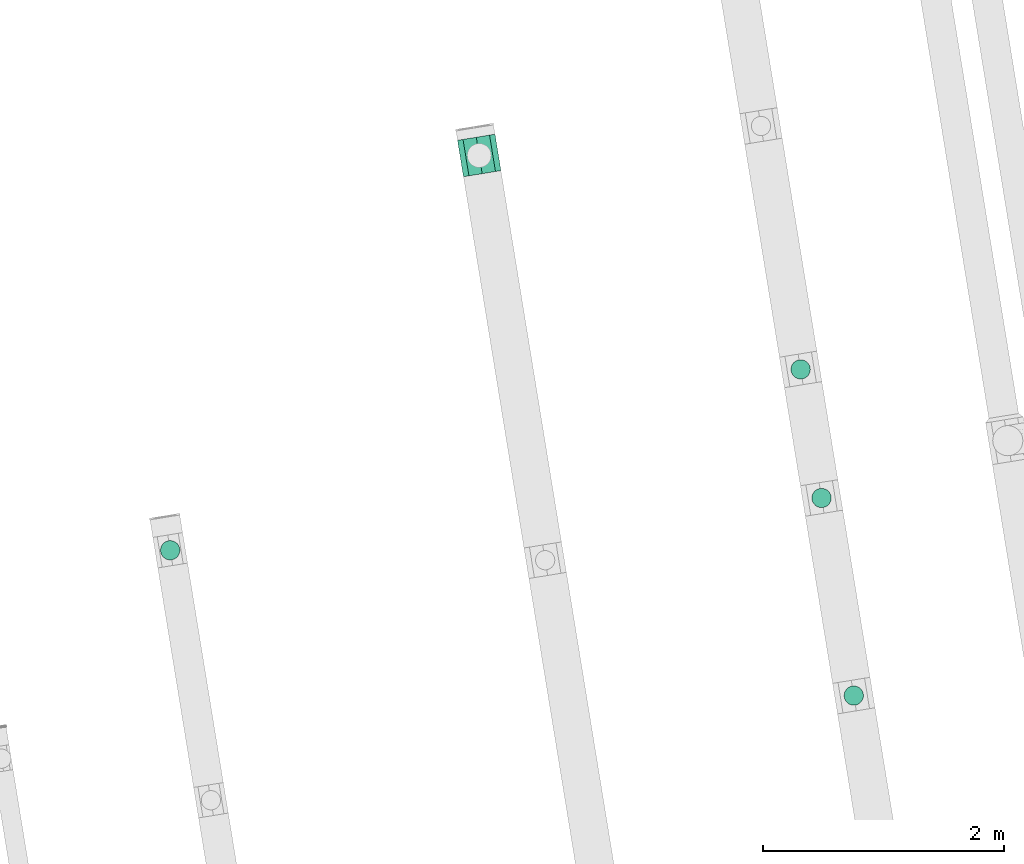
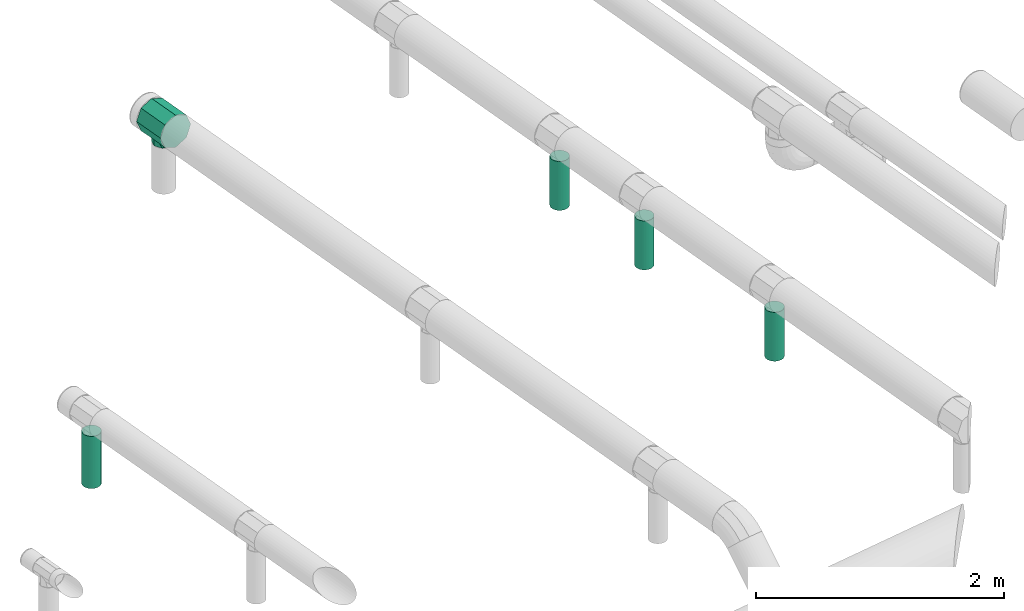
# One storey, part 13 of 15: 4 flow segments, 1 flow fitting.
"""IFC2X3 building model written with IfcOpenShell, lengths in millimetres."""

from ifc_helpers import new_model, entity, si_unit, converted_unit, derived_unit, direction, frame, origin, origin_with_axes, place, context, subcontext, project, spatial, faceted_brep, source, transform, mapped, material, type_object, element, save


model = new_model("IFC2X3")

# Units and contexts
model_context = context("Model", 3, precision=0.01, world=origin(), true_north=direction((6.12323399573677e-17, 1.0)))
plan_context = context("Plan", 3, precision=1e-05, world=origin_with_axes())
body_context = subcontext(model_context, "Body", "Model", "MODEL_VIEW")
ifc_project = project(units=[converted_unit("PLANEANGLEUNIT", "DEGREE", entity("IfcPositiveLengthMeasure", 0.0174532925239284), si_unit("PLANEANGLEUNIT", "RADIAN"), dimensions=[0, 0, 0, 0, 0, 0, 0]), si_unit("AREAUNIT", "SQUARE_METRE"), si_unit("LENGTHUNIT", "METRE", prefix="MILLI"), si_unit("MASSUNIT", "GRAM", prefix="KILO"), si_unit("POWERUNIT", "WATT"), si_unit("PRESSUREUNIT", "PASCAL", prefix="KILO"), si_unit("FORCEUNIT", "NEWTON", prefix="KILO"), si_unit("ELECTRICVOLTAGEUNIT", "VOLT"), si_unit("ELECTRICCURRENTUNIT", "AMPERE"), si_unit("THERMODYNAMICTEMPERATUREUNIT", "DEGREE_CELSIUS"), si_unit("TIMEUNIT", "SECOND"), si_unit("VOLUMEUNIT", "CUBIC_METRE"), derived_unit("LINEARVELOCITYUNIT", [(si_unit("LENGTHUNIT", "METRE"), 1), (si_unit("TIMEUNIT", "SECOND"), -1)]), derived_unit("VOLUMETRICFLOWRATEUNIT", [(si_unit("VOLUMEUNIT", "CUBIC_METRE"), 1), (si_unit("TIMEUNIT", "SECOND"), -1)]), derived_unit("THERMALTRANSMITTANCEUNIT", [(si_unit("POWERUNIT", "WATT"), 1), (si_unit("THERMODYNAMICTEMPERATUREUNIT", "KELVIN"), -1), (si_unit("AREAUNIT", "SQUARE_METRE"), -1)]), derived_unit("SOUNDPRESSUREUNIT", [(si_unit("PRESSUREUNIT", "PASCAL"), 1)])], contexts=[model_context, plan_context])

# Site, building, storey
site_placement = place(None, frame((5.09380697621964e-08, 5.80416781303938e-08, 0.0), z_axis=(0.0, 0.0, 1.0), x_axis=(-0.160806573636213, 0.986985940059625, 0.0)))
site = spatial("IfcSite", under=ifc_project, at=site_placement, Name="Default", CompositionType="ELEMENT")
building_placement = place(site_placement, frame((0.0, 0.0, 0.0), z_axis=(0.0, 0.0, 1.0), x_axis=(1.0, -2.77555756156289e-17, 0.0)))
building = spatial("IfcBuilding", under=site, at=building_placement, Name="Bygning (endres i Project Information)", CompositionType="ELEMENT")
storey_placement = place(building_placement, frame((0.0, 0.0, 51360.0000000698), z_axis=(0.0, 0.0, 1.0), x_axis=(1.0, -2.77555756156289e-17, 0.0)))
storey = spatial("IfcBuildingStorey", under=building, at=storey_placement, Name="H01-Nivå D+0,36", CompositionType="ELEMENT", Elevation=51360.0000000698)

# Flow fitting
ifc_material_1 = material(Name="DF_Material1")
duct_fitting_type = type_object("IfcDuctFittingType", Name="Lindab TCPU:TCPU", PredefinedType="NOTDEFINED", material=ifc_material_1)
shared_shape = source(origin(), body_context, "Body", "Brep", [
    faceted_brep([(100.000000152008, 182.0, 0.0), (70.7106782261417, 182.0, -70.7106782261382), (0.0, 182.0, -100.000000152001), (-70.7106782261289, 182.0, -70.7106782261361), (-100.000000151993, 182.0, 0.0), (-70.710678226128, 182.0, 70.7106782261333), (0.0, 182.0, 100.000000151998), (70.7106782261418, 182.0, 70.7106782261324), (-45.8953315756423, 130.04857363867, 88.8460385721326), (0.0, 121.680935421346, 100.000000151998), (-100.000000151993, 157.500000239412, 0.0), (-88.7191412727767, 150.58996006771, 46.1401560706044), (-88.7144313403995, 150.587185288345, -46.1492112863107), (0.0, 121.680935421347, -100.000000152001), (-45.891786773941, 130.047322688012, -88.8478696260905), (45.8953315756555, 130.048573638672, -88.8460385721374), (100.000000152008, 157.500000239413, 0.0), (88.719141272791, 150.589960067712, -46.1401560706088), (88.7191412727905, 150.589960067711, 46.1401560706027), (45.8953315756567, 130.048573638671, 88.8460385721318), (-153.0, 0.0, -157.500000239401), (-153.0, -111.369318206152, -111.369318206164), (-153.0, -157.500000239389, 0.0), (-153.0, -111.369318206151, 111.369318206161), (-153.0, 0.0, 157.500000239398), (-153.0, 111.369318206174, 111.36931820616), (-153.0, 134.434659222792, 55.6846591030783), (-153.0, 157.500000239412, 0.0), (-153.0, 134.434659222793, -55.6846591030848), (-153.0, 111.369318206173, -111.369318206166), (153.0, 157.500000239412, 0.0), (153.0, 134.434659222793, 55.6846591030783), (153.0, 111.369318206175, 111.36931820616), (153.0, 0.0, 157.500000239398), (153.0, -111.36931820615, 111.369318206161), (153.0, -157.500000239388, 0.0), (153.0, -111.369318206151, -111.369318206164), (153.0, 0.0, -157.500000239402), (153.0, 111.369318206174, -111.369318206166), (153.0, 134.434659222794, -55.6846591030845)], [[[0, 1, 2, 3, 4, 5, 6, 7]], [[6, 8, 9]], [[5, 8, 6]], [[4, 10, 11]], [[11, 5, 4]], [[8, 5, 11]], [[4, 12, 10]], [[3, 12, 4]], [[2, 13, 14]], [[14, 3, 2]], [[12, 3, 14]], [[2, 15, 13]], [[1, 15, 2]], [[0, 16, 17]], [[17, 1, 0]], [[15, 1, 17]], [[0, 18, 16]], [[7, 18, 0]], [[6, 9, 19]], [[19, 7, 6]], [[18, 7, 19]], [[20, 21, 22, 23, 24, 25, 26, 27, 28, 29]], [[30, 31, 32, 33, 34, 35, 36, 37, 38, 39]], [[23, 34, 33, 24]], [[22, 35, 34, 23]], [[22, 21, 36, 35]], [[20, 37, 36, 21]], [[13, 38, 37]], [[17, 39, 15]], [[20, 13, 37]], [[20, 29, 13]], [[14, 13, 29]], [[28, 12, 14]], [[15, 38, 13]], [[16, 30, 17]], [[39, 38, 15]], [[28, 27, 12]], [[12, 27, 10]], [[14, 29, 28]], [[30, 39, 17]], [[18, 30, 16]], [[27, 11, 10]], [[19, 32, 31]], [[26, 11, 27]], [[32, 19, 9]], [[31, 18, 19]], [[33, 32, 9]], [[25, 9, 8]], [[31, 30, 18]], [[9, 25, 24]], [[24, 33, 9]], [[8, 26, 25]], [[11, 26, 8]]]),
])
flow_fitting_placement = place(storey_placement, frame((1003131.85989301, -343179.24363092, 3804.40000000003), z_axis=(-2.77555756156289e-17, -1.0, 0.0), x_axis=(-1.0, 2.77555756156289e-17, 0.0)))
element("IfcFlowFitting", 1, at=flow_fitting_placement, inside=storey, type_object=duct_fitting_type, material=ifc_material_1, Name="Lindab TCPU:TCPU", ObjectType="Lindab TCPU:TCPU", context=body_context, shape_type="MappedRepresentation", body=[
    mapped(shared_shape, transform((0.0, 0.0, 0.0), scale=1.0)),
])

# Flow segments
ifc_material_2 = material(Name="3601.001 Tilluft")
duct_segment_type = type_object("IfcDuctSegmentType", Name="Round Duct:Sirkulær kanal", PredefinedType="NOTDEFINED", material=ifc_material_2)
flow_segment_1_placement = place(storey_placement, frame((0.0, 0.0, 0.0), z_axis=(0.0, 0.0, 1.0), x_axis=(1.0, -2.77555756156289e-17, 0.0)))
element("IfcFlowSegment", 2, at=flow_segment_1_placement, inside=storey, type_object=duct_segment_type, Name="Round Duct:Sirkulær kanal", ObjectType="Round Duct:Sirkulær kanal", context=body_context, shape_type="Brep", body=[
    faceted_brep([(1000313.18735498, -340204.100723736, 3139.99999993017), (1000299.29550075, -340202.885343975, 3139.99999993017), (1000299.29550075, -340202.885343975, 3654.29489743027), (1000313.18735498, -340204.100723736, 3654.29489743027), (1000327.07920922, -340202.885343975, 3139.99999993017), (1000327.07920922, -340202.885343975, 3654.29489743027), (1000340.54896649, -340199.276133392, 3139.99999993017), (1000340.54896649, -340199.276133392, 3654.29489743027), (1000353.18735504, -340193.382756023, 3139.99999993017), (1000353.18735504, -340193.382756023, 3654.29489743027), (1000364.61036384, -340185.384279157, 3139.99999993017), (1000364.61036384, -340185.384279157, 3654.29489743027), (1000374.47091052, -340175.523732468, 3139.99999993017), (1000374.47091052, -340175.523732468, 3654.29489743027), (1000382.46938739, -340164.100723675, 3139.99999993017), (1000382.46938739, -340164.100723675, 3654.29489743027), (1000388.36276476, -340151.462335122, 3139.99999993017), (1000388.36276476, -340151.462335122, 3654.29489743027), (1000391.97197534, -340137.992577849, 3139.99999993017), (1000391.97197534, -340137.992577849, 3654.29489743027), (1000393.1873551, -340124.100723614, 3139.99999993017), (1000393.1873551, -340124.100723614, 3654.29489743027), (1000391.97197534, -340110.20886938, 3139.99999993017), (1000391.97197534, -340110.20886938, 3654.29489743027), (1000388.36276476, -340096.739112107, 3139.99999993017), (1000388.36276476, -340096.739112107, 3654.29489743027), (1000382.46938739, -340084.100723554, 3139.99999993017), (1000382.46938739, -340084.100723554, 3654.29489743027), (1000374.47091052, -340072.677714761, 3139.99999993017), (1000374.47091052, -340072.677714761, 3654.29489743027), (1000364.61036384, -340062.817168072, 3139.99999993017), (1000364.61036384, -340062.817168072, 3654.29489743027), (1000353.18735504, -340054.818691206, 3139.99999993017), (1000353.18735504, -340054.818691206, 3654.29489743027), (1000340.54896649, -340048.925313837, 3139.99999993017), (1000340.54896649, -340048.925313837, 3654.29489743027), (1000327.07920922, -340045.316103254, 3139.99999993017), (1000327.07920922, -340045.316103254, 3654.29489743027), (1000313.18735498, -340044.100723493, 3139.99999993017), (1000313.18735498, -340044.100723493, 3654.29489743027), (1000299.29550075, -340045.316103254, 3139.99999993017), (1000299.29550075, -340045.316103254, 3654.29489743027), (1000285.82574347, -340048.925313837, 3139.99999993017), (1000285.82574347, -340048.925313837, 3654.29489743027), (1000273.18735492, -340054.818691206, 3139.99999993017), (1000273.18735492, -340054.818691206, 3654.29489743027), (1000261.76434613, -340062.817168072, 3139.99999993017), (1000261.76434613, -340062.817168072, 3654.29489743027), (1000251.90379944, -340072.677714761, 3139.99999993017), (1000251.90379944, -340072.677714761, 3654.29489743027), (1000243.90532257, -340084.100723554, 3139.99999993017), (1000243.90532257, -340084.100723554, 3654.29489743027), (1000238.01194521, -340096.739112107, 3139.99999993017), (1000238.0119452, -340096.739112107, 3654.29489743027), (1000234.40273462, -340110.20886938, 3139.99999993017), (1000234.40273462, -340110.20886938, 3654.29489743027), (1000233.18735486, -340124.100723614, 3139.99999993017), (1000233.18735486, -340124.100723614, 3654.29489743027), (1000234.40273462, -340137.992577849, 3139.99999993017), (1000234.40273462, -340137.992577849, 3654.29489743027), (1000238.01194521, -340151.462335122, 3139.99999993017), (1000238.0119452, -340151.462335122, 3654.29489743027), (1000243.90532257, -340164.100723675, 3139.99999993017), (1000243.90532257, -340164.100723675, 3654.29489743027), (1000251.90379944, -340175.523732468, 3139.99999993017), (1000251.90379944, -340175.523732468, 3654.29489743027), (1000261.76434613, -340185.384279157, 3139.99999993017), (1000261.76434613, -340185.384279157, 3654.29489743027), (1000273.18735492, -340193.382756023, 3139.99999993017), (1000273.18735492, -340193.382756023, 3654.29489743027), (1000285.82574347, -340199.276133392, 3139.99999993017), (1000285.82574347, -340199.276133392, 3654.29489743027)], [[[0, 1, 2, 3]], [[4, 0, 3, 5]], [[6, 4, 5, 7]], [[8, 6, 7, 9]], [[10, 8, 9, 11]], [[12, 10, 11, 13]], [[14, 12, 13, 15]], [[16, 14, 15, 17]], [[18, 16, 17, 19]], [[20, 18, 19, 21]], [[22, 20, 21, 23]], [[24, 22, 23, 25]], [[26, 24, 25, 27]], [[28, 26, 27, 29]], [[30, 28, 29, 31]], [[32, 30, 31, 33]], [[34, 32, 33, 35]], [[36, 34, 35, 37]], [[38, 36, 37, 39]], [[40, 38, 39, 41]], [[42, 40, 41, 43]], [[44, 42, 43, 45]], [[46, 44, 45, 47]], [[48, 46, 47, 49]], [[50, 48, 49, 51]], [[52, 50, 51, 53]], [[54, 52, 53, 55]], [[56, 54, 55, 57]], [[58, 56, 57, 59]], [[60, 58, 59, 61]], [[62, 60, 61, 63]], [[64, 62, 63, 65]], [[66, 64, 65, 67]], [[68, 66, 67, 69]], [[70, 68, 69, 71]], [[1, 70, 71, 2]], [[3, 2, 71, 69, 67, 65, 63, 61, 59, 57, 55, 53, 51, 49, 47, 45, 43, 41, 39, 37, 35, 33, 31, 29, 27, 25, 23, 21, 19, 17, 15, 13, 11, 9, 7, 5]], [[4, 6, 8, 10, 12, 14, 16, 18, 20, 22, 24, 26, 28, 30, 32, 34, 36, 38, 40, 42, 44, 46, 48, 50, 52, 54, 56, 58, 60, 62, 64, 66, 68, 70, 1, 0]]], orient=[[False], [False], [False], [False], [False], [False], [False], [False], [False], [False], [False], [False], [False], [False], [False], [False], [False], [False], [False], [False], [False], [False], [False], [False], [False], [False], [False], [False], [False], [False], [False], [False], [False], [False], [False], [False], [False], [False]]),
])
flow_segment_2_placement = place(storey_placement, frame((0.0, 0.0, 0.0), z_axis=(0.0, 0.0, 1.0), x_axis=(1.0, -2.77555756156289e-17, 0.0)))
element("IfcFlowSegment", 3, at=flow_segment_2_placement, inside=storey, type_object=duct_segment_type, Name="Round Duct:Sirkulær kanal", ObjectType="Round Duct:Sirkulær kanal", context=body_context, shape_type="Brep", body=[
    faceted_brep([(998212.558907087, -345444.100723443, 3139.99999993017), (998226.450761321, -345445.316103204, 3139.99999993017), (998226.450761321, -345445.316103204, 3622.29489743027), (998212.558907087, -345444.100723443, 3622.29489743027), (998198.667052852, -345445.316103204, 3139.99999993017), (998198.667052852, -345445.316103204, 3622.29489743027), (998185.197295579, -345448.925313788, 3139.99999993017), (998185.197295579, -345448.925313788, 3622.29489743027), (998172.558907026, -345454.818691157, 3139.99999993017), (998172.558907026, -345454.818691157, 3622.29489743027), (998161.135898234, -345462.817168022, 3139.99999993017), (998161.135898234, -345462.817168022, 3622.29489743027), (998151.275351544, -345472.677714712, 3139.99999993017), (998151.275351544, -345472.677714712, 3622.29489743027), (998143.276874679, -345484.100723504, 3139.99999993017), (998143.276874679, -345484.100723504, 3622.29489743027), (998137.38349731, -345496.739112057, 3139.99999993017), (998137.38349731, -345496.739112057, 3622.29489743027), (998133.774286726, -345510.208869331, 3139.99999993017), (998133.774286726, -345510.208869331, 3622.29489743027), (998132.558906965, -345524.100723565, 3139.99999993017), (998132.558906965, -345524.100723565, 3622.29489743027), (998133.774286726, -345537.992577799, 3139.99999993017), (998133.774286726, -345537.992577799, 3622.29489743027), (998137.38349731, -345551.462335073, 3139.99999993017), (998137.38349731, -345551.462335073, 3622.29489743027), (998143.276874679, -345564.100723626, 3139.99999993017), (998143.276874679, -345564.100723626, 3622.29489743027), (998151.275351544, -345575.523732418, 3139.99999993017), (998151.275351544, -345575.523732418, 3622.29489743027), (998161.135898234, -345585.384279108, 3139.99999993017), (998161.135898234, -345585.384279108, 3622.29489743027), (998172.558907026, -345593.382755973, 3139.99999993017), (998172.558907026, -345593.382755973, 3622.29489743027), (998185.197295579, -345599.276133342, 3139.99999993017), (998185.197295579, -345599.276133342, 3622.29489743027), (998198.667052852, -345602.885343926, 3139.99999993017), (998198.667052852, -345602.885343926, 3622.29489743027), (998212.558907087, -345604.100723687, 3139.99999993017), (998212.558907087, -345604.100723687, 3622.29489743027), (998226.450761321, -345602.885343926, 3139.99999993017), (998226.450761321, -345602.885343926, 3622.29489743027), (998239.920518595, -345599.276133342, 3139.99999993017), (998239.920518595, -345599.276133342, 3622.29489743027), (998252.558907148, -345593.382755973, 3139.99999993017), (998252.558907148, -345593.382755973, 3622.29489743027), (998263.98191594, -345585.384279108, 3139.99999993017), (998263.98191594, -345585.384279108, 3622.29489743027), (998273.84246263, -345575.523732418, 3139.99999993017), (998273.84246263, -345575.523732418, 3622.29489743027), (998281.840939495, -345564.100723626, 3139.99999993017), (998281.840939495, -345564.100723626, 3622.29489743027), (998287.734316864, -345551.462335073, 3139.99999993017), (998287.734316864, -345551.462335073, 3622.29489743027), (998291.343527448, -345537.992577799, 3139.99999993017), (998291.343527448, -345537.992577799, 3622.29489743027), (998292.558907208, -345524.100723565, 3139.99999993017), (998292.558907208, -345524.100723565, 3622.29489743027), (998291.343527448, -345510.208869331, 3139.99999993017), (998291.343527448, -345510.208869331, 3622.29489743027), (998287.734316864, -345496.739112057, 3139.99999993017), (998287.734316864, -345496.739112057, 3622.29489743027), (998281.840939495, -345484.100723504, 3139.99999993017), (998281.840939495, -345484.100723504, 3622.29489743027), (998273.84246263, -345472.677714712, 3139.99999993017), (998273.84246263, -345472.677714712, 3622.29489743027), (998263.98191594, -345462.817168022, 3139.99999993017), (998263.98191594, -345462.817168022, 3622.29489743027), (998252.558907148, -345454.818691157, 3139.99999993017), (998252.558907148, -345454.818691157, 3622.29489743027), (998239.920518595, -345448.925313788, 3139.99999993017), (998239.920518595, -345448.925313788, 3622.29489743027)], [[[0, 1, 2, 3]], [[4, 0, 3, 5]], [[6, 4, 5, 7]], [[8, 6, 7, 9]], [[10, 8, 9, 11]], [[12, 10, 11, 13]], [[14, 12, 13, 15]], [[16, 14, 15, 17]], [[18, 16, 17, 19]], [[20, 18, 19, 21]], [[22, 20, 21, 23]], [[24, 22, 23, 25]], [[26, 24, 25, 27]], [[28, 26, 27, 29]], [[30, 28, 29, 31]], [[32, 30, 31, 33]], [[34, 32, 33, 35]], [[36, 34, 35, 37]], [[38, 36, 37, 39]], [[40, 38, 39, 41]], [[42, 40, 41, 43]], [[44, 42, 43, 45]], [[46, 44, 45, 47]], [[48, 46, 47, 49]], [[50, 48, 49, 51]], [[52, 50, 51, 53]], [[54, 52, 53, 55]], [[56, 54, 55, 57]], [[58, 56, 57, 59]], [[60, 58, 59, 61]], [[62, 60, 61, 63]], [[64, 62, 63, 65]], [[66, 64, 65, 67]], [[68, 66, 67, 69]], [[70, 68, 69, 71]], [[1, 70, 71, 2]], [[3, 2, 71, 69, 67, 65, 63, 61, 59, 57, 55, 53, 51, 49, 47, 45, 43, 41, 39, 37, 35, 33, 31, 29, 27, 25, 23, 21, 19, 17, 15, 13, 11, 9, 7, 5]], [[4, 6, 8, 10, 12, 14, 16, 18, 20, 22, 24, 26, 28, 30, 32, 34, 36, 38, 40, 42, 44, 46, 48, 50, 52, 54, 56, 58, 60, 62, 64, 66, 68, 70, 1, 0]]], orient=[[False], [False], [False], [False], [False], [False], [False], [False], [False], [False], [False], [False], [False], [False], [False], [False], [False], [False], [False], [False], [False], [False], [False], [False], [False], [False], [False], [False], [False], [False], [False], [False], [False], [False], [False], [False], [False], [False]]),
])
flow_segment_3_placement = place(storey_placement, frame((0.0, 0.0, 0.0), z_axis=(0.0, 0.0, 1.0), x_axis=(1.0, -2.77555756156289e-17, 0.0)))
element("IfcFlowSegment", 4, at=flow_segment_3_placement, inside=storey, type_object=duct_segment_type, Name="Round Duct:Sirkulær kanal", ObjectType="Round Duct:Sirkulær kanal", context=body_context, shape_type="Brep", body=[
    faceted_brep([(999872.558907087, -345444.100723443, 3139.99999993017), (999886.450761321, -345445.316103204, 3139.99999993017), (999886.450761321, -345445.316103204, 3622.29489743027), (999872.558907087, -345444.100723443, 3622.29489743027), (999858.667052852, -345445.316103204, 3139.99999993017), (999858.667052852, -345445.316103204, 3622.29489743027), (999845.197295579, -345448.925313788, 3139.99999993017), (999845.197295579, -345448.925313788, 3622.29489743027), (999832.558907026, -345454.818691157, 3139.99999993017), (999832.558907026, -345454.818691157, 3622.29489743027), (999821.135898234, -345462.817168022, 3139.99999993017), (999821.135898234, -345462.817168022, 3622.29489743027), (999811.275351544, -345472.677714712, 3139.99999993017), (999811.275351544, -345472.677714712, 3622.29489743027), (999803.276874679, -345484.100723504, 3139.99999993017), (999803.276874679, -345484.100723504, 3622.29489743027), (999797.38349731, -345496.739112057, 3139.99999993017), (999797.38349731, -345496.739112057, 3622.29489743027), (999793.774286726, -345510.208869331, 3139.99999993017), (999793.774286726, -345510.208869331, 3622.29489743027), (999792.558906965, -345524.100723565, 3139.99999993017), (999792.558906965, -345524.100723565, 3622.29489743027), (999793.774286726, -345537.992577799, 3139.99999993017), (999793.774286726, -345537.992577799, 3622.29489743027), (999797.38349731, -345551.462335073, 3139.99999993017), (999797.38349731, -345551.462335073, 3622.29489743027), (999803.276874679, -345564.100723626, 3139.99999993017), (999803.276874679, -345564.100723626, 3622.29489743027), (999811.275351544, -345575.523732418, 3139.99999993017), (999811.275351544, -345575.523732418, 3622.29489743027), (999821.135898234, -345585.384279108, 3139.99999993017), (999821.135898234, -345585.384279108, 3622.29489743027), (999832.558907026, -345593.382755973, 3139.99999993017), (999832.558907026, -345593.382755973, 3622.29489743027), (999845.197295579, -345599.276133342, 3139.99999993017), (999845.197295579, -345599.276133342, 3622.29489743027), (999858.667052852, -345602.885343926, 3139.99999993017), (999858.667052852, -345602.885343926, 3622.29489743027), (999872.558907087, -345604.100723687, 3139.99999993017), (999872.558907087, -345604.100723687, 3622.29489743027), (999886.450761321, -345602.885343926, 3139.99999993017), (999886.450761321, -345602.885343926, 3622.29489743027), (999899.920518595, -345599.276133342, 3139.99999993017), (999899.920518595, -345599.276133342, 3622.29489743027), (999912.558907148, -345593.382755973, 3139.99999993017), (999912.558907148, -345593.382755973, 3622.29489743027), (999923.98191594, -345585.384279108, 3139.99999993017), (999923.98191594, -345585.384279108, 3622.29489743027), (999933.84246263, -345575.523732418, 3139.99999993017), (999933.84246263, -345575.523732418, 3622.29489743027), (999941.840939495, -345564.100723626, 3139.99999993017), (999941.840939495, -345564.100723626, 3622.29489743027), (999947.734316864, -345551.462335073, 3139.99999993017), (999947.734316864, -345551.462335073, 3622.29489743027), (999951.343527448, -345537.992577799, 3139.99999993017), (999951.343527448, -345537.992577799, 3622.29489743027), (999952.558907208, -345524.100723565, 3139.99999993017), (999952.558907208, -345524.100723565, 3622.29489743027), (999951.343527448, -345510.208869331, 3139.99999993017), (999951.343527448, -345510.208869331, 3622.29489743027), (999947.734316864, -345496.739112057, 3139.99999993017), (999947.734316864, -345496.739112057, 3622.29489743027), (999941.840939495, -345484.100723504, 3139.99999993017), (999941.840939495, -345484.100723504, 3622.29489743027), (999933.84246263, -345472.677714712, 3139.99999993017), (999933.84246263, -345472.677714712, 3622.29489743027), (999923.98191594, -345462.817168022, 3139.99999993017), (999923.98191594, -345462.817168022, 3622.29489743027), (999912.558907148, -345454.818691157, 3139.99999993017), (999912.558907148, -345454.818691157, 3622.29489743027), (999899.920518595, -345448.925313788, 3139.99999993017), (999899.920518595, -345448.925313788, 3622.29489743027)], [[[0, 1, 2, 3]], [[4, 0, 3, 5]], [[6, 4, 5, 7]], [[8, 6, 7, 9]], [[10, 8, 9, 11]], [[12, 10, 11, 13]], [[14, 12, 13, 15]], [[16, 14, 15, 17]], [[18, 16, 17, 19]], [[20, 18, 19, 21]], [[22, 20, 21, 23]], [[24, 22, 23, 25]], [[26, 24, 25, 27]], [[28, 26, 27, 29]], [[30, 28, 29, 31]], [[32, 30, 31, 33]], [[34, 32, 33, 35]], [[36, 34, 35, 37]], [[38, 36, 37, 39]], [[40, 38, 39, 41]], [[42, 40, 41, 43]], [[44, 42, 43, 45]], [[46, 44, 45, 47]], [[48, 46, 47, 49]], [[50, 48, 49, 51]], [[52, 50, 51, 53]], [[54, 52, 53, 55]], [[56, 54, 55, 57]], [[58, 56, 57, 59]], [[60, 58, 59, 61]], [[62, 60, 61, 63]], [[64, 62, 63, 65]], [[66, 64, 65, 67]], [[68, 66, 67, 69]], [[70, 68, 69, 71]], [[1, 70, 71, 2]], [[3, 2, 71, 69, 67, 65, 63, 61, 59, 57, 55, 53, 51, 49, 47, 45, 43, 41, 39, 37, 35, 33, 31, 29, 27, 25, 23, 21, 19, 17, 15, 13, 11, 9, 7, 5]], [[4, 6, 8, 10, 12, 14, 16, 18, 20, 22, 24, 26, 28, 30, 32, 34, 36, 38, 40, 42, 44, 46, 48, 50, 52, 54, 56, 58, 60, 62, 64, 66, 68, 70, 1, 0]]], orient=[[False], [False], [False], [False], [False], [False], [False], [False], [False], [False], [False], [False], [False], [False], [False], [False], [False], [False], [False], [False], [False], [False], [False], [False], [False], [False], [False], [False], [False], [False], [False], [False], [False], [False], [False], [False], [False], [False]]),
])
flow_segment_4_placement = place(storey_placement, frame((0.0, 0.0, 0.0), z_axis=(0.0, 0.0, 1.0), x_axis=(1.0, -2.77555756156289e-17, 0.0)))
element("IfcFlowSegment", 5, at=flow_segment_4_placement, inside=storey, type_object=duct_segment_type, Name="Round Duct:Sirkulær kanal", ObjectType="Round Duct:Sirkulær kanal", context=body_context, shape_type="Brep", body=[
    faceted_brep([(1000952.55890709, -345444.100723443, 3139.99999993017), (1000966.45076132, -345445.316103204, 3139.99999993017), (1000966.45076132, -345445.316103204, 3622.29489743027), (1000952.55890709, -345444.100723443, 3622.29489743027), (1000938.66705285, -345445.316103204, 3139.99999993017), (1000938.66705285, -345445.316103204, 3622.29489743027), (1000925.19729558, -345448.925313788, 3139.99999993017), (1000925.19729558, -345448.925313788, 3622.29489743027), (1000912.55890703, -345454.818691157, 3139.99999993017), (1000912.55890703, -345454.818691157, 3622.29489743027), (1000901.13589823, -345462.817168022, 3139.99999993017), (1000901.13589823, -345462.817168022, 3622.29489743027), (1000891.27535154, -345472.677714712, 3139.99999993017), (1000891.27535154, -345472.677714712, 3622.29489743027), (1000883.27687468, -345484.100723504, 3139.99999993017), (1000883.27687468, -345484.100723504, 3622.29489743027), (1000877.38349731, -345496.739112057, 3139.99999993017), (1000877.38349731, -345496.739112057, 3622.29489743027), (1000873.77428673, -345510.208869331, 3139.99999993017), (1000873.77428673, -345510.208869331, 3622.29489743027), (1000872.55890697, -345524.100723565, 3139.99999993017), (1000872.55890697, -345524.100723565, 3622.29489743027), (1000873.77428673, -345537.992577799, 3139.99999993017), (1000873.77428673, -345537.992577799, 3622.29489743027), (1000877.38349731, -345551.462335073, 3139.99999993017), (1000877.38349731, -345551.462335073, 3622.29489743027), (1000883.27687468, -345564.100723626, 3139.99999993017), (1000883.27687468, -345564.100723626, 3622.29489743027), (1000891.27535154, -345575.523732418, 3139.99999993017), (1000891.27535154, -345575.523732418, 3622.29489743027), (1000901.13589823, -345585.384279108, 3139.99999993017), (1000901.13589823, -345585.384279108, 3622.29489743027), (1000912.55890703, -345593.382755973, 3139.99999993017), (1000912.55890703, -345593.382755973, 3622.29489743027), (1000925.19729558, -345599.276133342, 3139.99999993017), (1000925.19729558, -345599.276133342, 3622.29489743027), (1000938.66705285, -345602.885343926, 3139.99999993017), (1000938.66705285, -345602.885343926, 3622.29489743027), (1000952.55890709, -345604.100723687, 3139.99999993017), (1000952.55890709, -345604.100723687, 3622.29489743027), (1000966.45076132, -345602.885343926, 3139.99999993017), (1000966.45076132, -345602.885343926, 3622.29489743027), (1000979.92051859, -345599.276133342, 3139.99999993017), (1000979.92051859, -345599.276133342, 3622.29489743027), (1000992.55890715, -345593.382755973, 3139.99999993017), (1000992.55890715, -345593.382755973, 3622.29489743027), (1001003.98191594, -345585.384279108, 3139.99999993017), (1001003.98191594, -345585.384279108, 3622.29489743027), (1001013.84246263, -345575.523732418, 3139.99999993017), (1001013.84246263, -345575.523732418, 3622.29489743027), (1001021.8409395, -345564.100723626, 3139.99999993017), (1001021.84093949, -345564.100723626, 3622.29489743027), (1001027.73431686, -345551.462335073, 3139.99999993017), (1001027.73431686, -345551.462335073, 3622.29489743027), (1001031.34352745, -345537.992577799, 3139.99999993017), (1001031.34352745, -345537.992577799, 3622.29489743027), (1001032.55890721, -345524.100723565, 3139.99999993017), (1001032.55890721, -345524.100723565, 3622.29489743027), (1001031.34352745, -345510.208869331, 3139.99999993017), (1001031.34352745, -345510.208869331, 3622.29489743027), (1001027.73431686, -345496.739112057, 3139.99999993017), (1001027.73431686, -345496.739112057, 3622.29489743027), (1001021.8409395, -345484.100723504, 3139.99999993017), (1001021.84093949, -345484.100723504, 3622.29489743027), (1001013.84246263, -345472.677714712, 3139.99999993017), (1001013.84246263, -345472.677714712, 3622.29489743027), (1001003.98191594, -345462.817168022, 3139.99999993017), (1001003.98191594, -345462.817168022, 3622.29489743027), (1000992.55890715, -345454.818691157, 3139.99999993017), (1000992.55890715, -345454.818691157, 3622.29489743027), (1000979.92051859, -345448.925313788, 3139.99999993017), (1000979.92051859, -345448.925313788, 3622.29489743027)], [[[0, 1, 2, 3]], [[4, 0, 3, 5]], [[6, 4, 5, 7]], [[8, 6, 7, 9]], [[10, 8, 9, 11]], [[12, 10, 11, 13]], [[14, 12, 13, 15]], [[16, 14, 15, 17]], [[18, 16, 17, 19]], [[20, 18, 19, 21]], [[22, 20, 21, 23]], [[24, 22, 23, 25]], [[26, 24, 25, 27]], [[28, 26, 27, 29]], [[30, 28, 29, 31]], [[32, 30, 31, 33]], [[34, 32, 33, 35]], [[36, 34, 35, 37]], [[38, 36, 37, 39]], [[40, 38, 39, 41]], [[42, 40, 41, 43]], [[44, 42, 43, 45]], [[46, 44, 45, 47]], [[48, 46, 47, 49]], [[50, 48, 49, 51]], [[52, 50, 51, 53]], [[54, 52, 53, 55]], [[56, 54, 55, 57]], [[58, 56, 57, 59]], [[60, 58, 59, 61]], [[62, 60, 61, 63]], [[64, 62, 63, 65]], [[66, 64, 65, 67]], [[68, 66, 67, 69]], [[70, 68, 69, 71]], [[1, 70, 71, 2]], [[3, 2, 71, 69, 67, 65, 63, 61, 59, 57, 55, 53, 51, 49, 47, 45, 43, 41, 39, 37, 35, 33, 31, 29, 27, 25, 23, 21, 19, 17, 15, 13, 11, 9, 7, 5]], [[4, 6, 8, 10, 12, 14, 16, 18, 20, 22, 24, 26, 28, 30, 32, 34, 36, 38, 40, 42, 44, 46, 48, 50, 52, 54, 56, 58, 60, 62, 64, 66, 68, 70, 1, 0]]], orient=[[False], [False], [False], [False], [False], [False], [False], [False], [False], [False], [False], [False], [False], [False], [False], [False], [False], [False], [False], [False], [False], [False], [False], [False], [False], [False], [False], [False], [False], [False], [False], [False], [False], [False], [False], [False], [False], [False]]),
])

save(model, "model.ifc")
